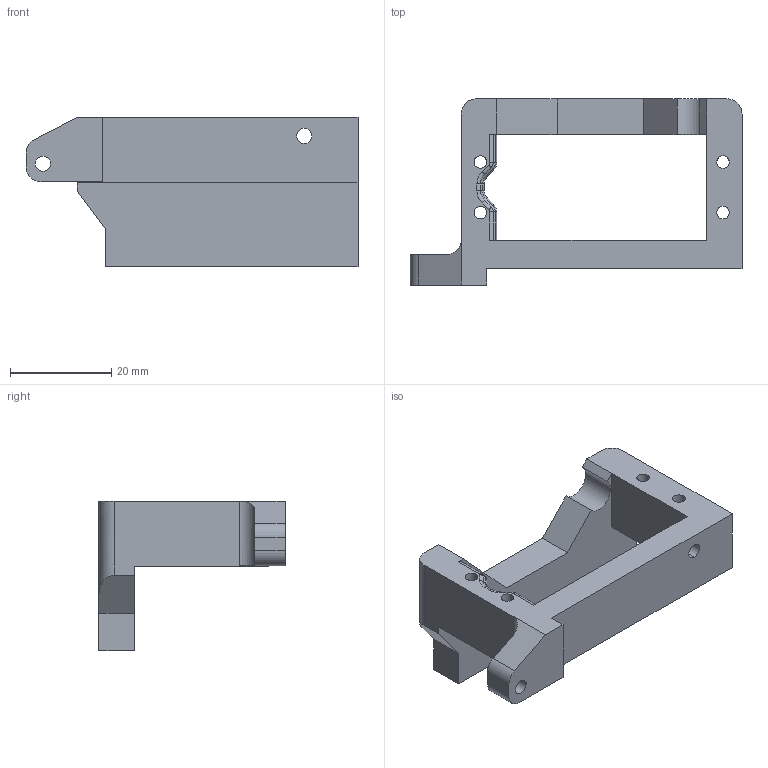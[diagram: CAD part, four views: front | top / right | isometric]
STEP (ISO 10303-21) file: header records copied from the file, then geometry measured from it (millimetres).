
FILE_DESCRIPTION (( 'STEP AP214' ), '1' );
FILE_NAME ('Ì44_ÏÌ_Êîïóñ ñåðâû.STEP', '2019-03-21T12:17:03', ( '' ), ( '' ), 'SwSTEP 2.0', 'SolidWorks 2018', '' );
FILE_SCHEMA (( 'AUTOMOTIVE_DESIGN' ));
Length unit declared in the file: millimetre
Products named in the file (1): Ì44_ÏÌ_Êîïóñ ñåðâû
Bounding box: 65.66 x 36.82 x 29.6 mm (x, y, z)
Volume: 16178.1 mm3; surface area: 8122.2 mm2
Topology: 1 solids, 1 shells, 112 faces, 277 edges, 168 vertices
Faces by surface type: cylinder 48, plane 40, torus 16, cone 8
Entity records: 3361 total; most frequent: DIRECTION 619, CARTESIAN_POINT 564, ORIENTED_EDGE 554, EDGE_CURVE 277, AXIS2_PLACEMENT_3D 231, VERTEX_POINT 168, LINE 157, VECTOR 157
